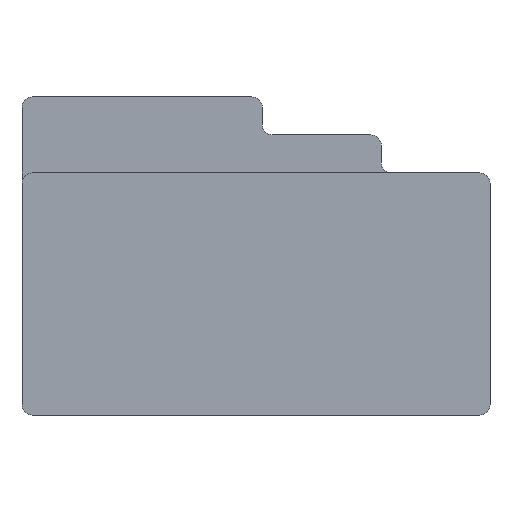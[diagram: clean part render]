
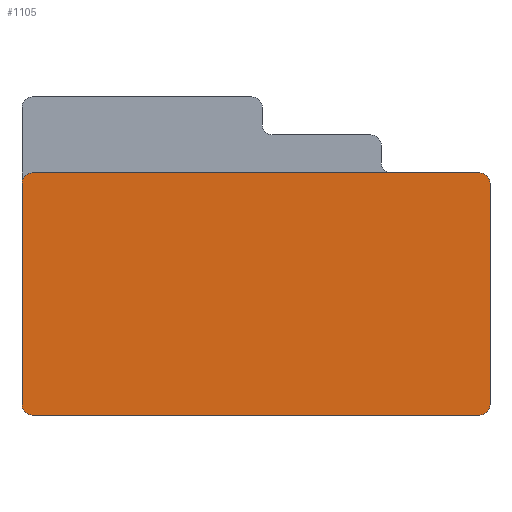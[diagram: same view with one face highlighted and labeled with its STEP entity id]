
A CAD part, front view. The second image highlights one B-rep face of the part: STEP entity #1105.
In plain terms, the highlighted planar face has unit normal (0, -1, 0).
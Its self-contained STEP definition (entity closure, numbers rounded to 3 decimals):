
#200=CARTESIAN_POINT('',(-10.9,-11.6,11.3));
#201=DIRECTION('',(0.,-1.,0.));
#202=DIRECTION('',(0.,0.,1.));
#203=AXIS2_PLACEMENT_3D('',#200,#201,#202);
#205=CARTESIAN_POINT('',(10.9,-11.6,11.3));
#206=DIRECTION('',(0.,-1.,0.));
#207=DIRECTION('',(1.,0.,0.));
#208=AXIS2_PLACEMENT_3D('',#205,#206,#207);
#210=CARTESIAN_POINT('',(10.9,-11.6,0.5));
#211=DIRECTION('',(0.,-1.,0.));
#212=DIRECTION('',(0.,0.,-1.));
#213=AXIS2_PLACEMENT_3D('',#210,#211,#212);
#215=CARTESIAN_POINT('',(-10.9,-11.6,0.5));
#216=DIRECTION('',(0.,-1.,0.));
#217=DIRECTION('',(-1.,0.,0.));
#218=AXIS2_PLACEMENT_3D('',#215,#216,#217);
#220=DIRECTION('',(0.,0.,1.));
#221=VECTOR('',#220,10.8);
#222=CARTESIAN_POINT('',(-11.4,-11.6,0.5));
#223=LINE('',#222,#221);
#308=DIRECTION('',(1.,0.,0.));
#309=VECTOR('',#308,21.8);
#310=CARTESIAN_POINT('',(-10.9,-11.6,11.8));
#311=LINE('',#310,#309);
#500=DIRECTION('',(1.,0.,0.));
#501=VECTOR('',#500,21.8);
#502=CARTESIAN_POINT('',(-10.9,-11.6,0.));
#503=LINE('',#502,#501);
#570=DIRECTION('',(0.,0.,1.));
#571=VECTOR('',#570,10.8);
#572=CARTESIAN_POINT('',(11.4,-11.6,0.5));
#573=LINE('',#572,#571);
#716=CARTESIAN_POINT('',(-10.9,-11.6,11.8));
#717=CARTESIAN_POINT('',(-11.4,-11.6,11.3));
#718=VERTEX_POINT('',#716);
#719=VERTEX_POINT('',#717);
#744=CARTESIAN_POINT('',(11.4,-11.6,11.3));
#745=VERTEX_POINT('',#744);
#746=CARTESIAN_POINT('',(10.9,-11.6,11.8));
#747=VERTEX_POINT('',#746);
#748=CARTESIAN_POINT('',(10.9,-11.6,0.));
#749=CARTESIAN_POINT('',(11.4,-11.6,0.5));
#750=VERTEX_POINT('',#748);
#751=VERTEX_POINT('',#749);
#760=CARTESIAN_POINT('',(-11.4,-11.6,0.5));
#761=VERTEX_POINT('',#760);
#762=CARTESIAN_POINT('',(-10.9,-11.6,0.));
#763=VERTEX_POINT('',#762);
#1083=CARTESIAN_POINT('',(-11.4,-11.6,0.));
#1084=DIRECTION('',(0.,-1.,0.));
#1085=DIRECTION('',(1.,0.,0.));
#1086=AXIS2_PLACEMENT_3D('',#1083,#1084,#1085);
#1087=PLANE('',#1086);
#1089=ORIENTED_EDGE('',*,*,#1088,.F.);
#1091=ORIENTED_EDGE('',*,*,#1090,.T.);
#1093=ORIENTED_EDGE('',*,*,#1092,.F.);
#1095=ORIENTED_EDGE('',*,*,#1094,.F.);
#1096=ORIENTED_EDGE('',*,*,#1073,.F.);
#1098=ORIENTED_EDGE('',*,*,#1097,.F.);
#1100=ORIENTED_EDGE('',*,*,#1099,.F.);
#1102=ORIENTED_EDGE('',*,*,#1101,.T.);
#1103=EDGE_LOOP('',(#1089,#1091,#1093,#1095,#1096,#1098,#1100,#1102));
#1104=FACE_OUTER_BOUND('',#1103,.F.);
#1105=ADVANCED_FACE('',(#1104),#1087,.T.);
#204=CIRCLE('',#203,0.5);
#209=CIRCLE('',#208,0.5);
#214=CIRCLE('',#213,0.5);
#219=CIRCLE('',#218,0.5);
#1073=EDGE_CURVE('',#750,#751,#214,.T.);
#1088=EDGE_CURVE('',#718,#719,#204,.T.);
#1090=EDGE_CURVE('',#718,#747,#311,.T.);
#1092=EDGE_CURVE('',#745,#747,#209,.T.);
#1094=EDGE_CURVE('',#751,#745,#573,.T.);
#1097=EDGE_CURVE('',#763,#750,#503,.T.);
#1099=EDGE_CURVE('',#761,#763,#219,.T.);
#1101=EDGE_CURVE('',#761,#719,#223,.T.);
